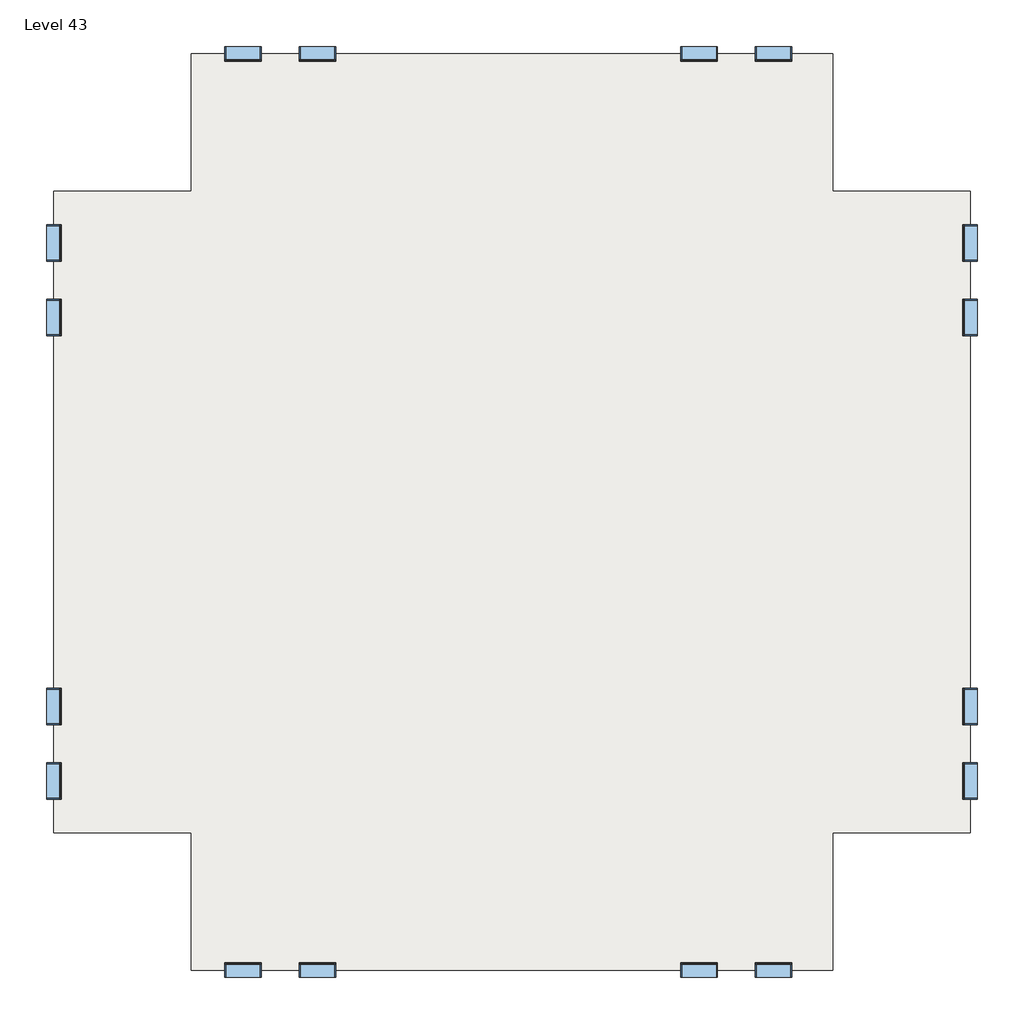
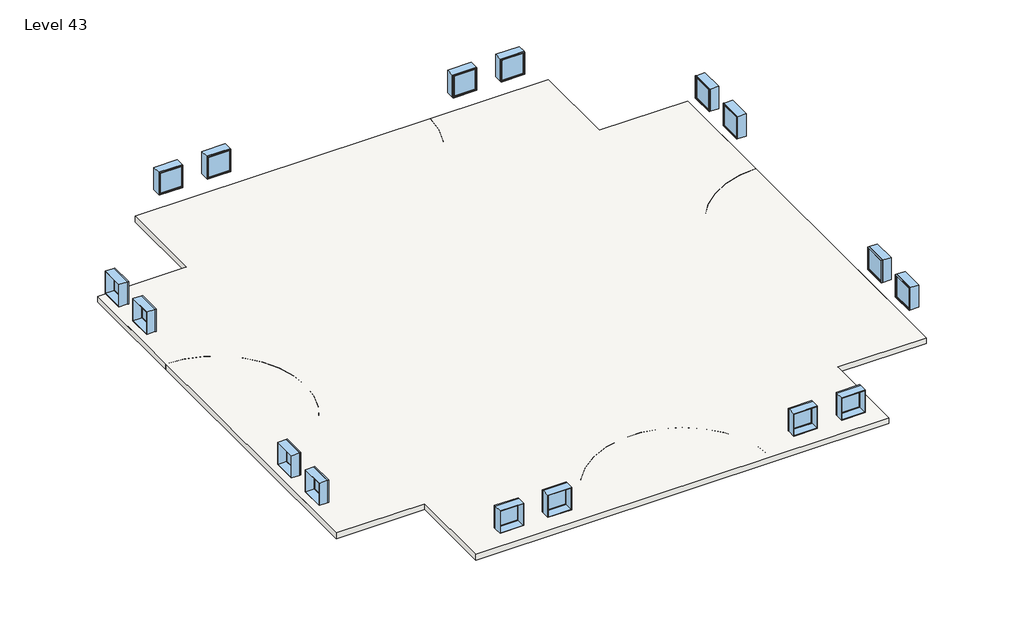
# One storey: 16 windows, 3 slabs.
"""IFC4 building model written with IfcOpenShell, lengths in millimetres."""

from ifc_helpers import new_model, si_unit, point, frame, frame_2d, origin, place, context, project, spatial, polyline, circle_curve, trimmed, segment, composite_curve, outline, extrude, transform, mapped, element, save
from components import window_d0035ecf, window_d434eb62

model = new_model("IFC4")

# Units and contexts
model_context = context("Model", 3, world=origin())
ifc_project = project(units=[si_unit("LENGTHUNIT", "METRE", prefix="MILLI")], contexts=[model_context])

# Site, building, storey
site = spatial("IfcSite", under=ifc_project)
building = spatial("IfcBuilding", under=site)
storey = spatial("IfcBuildingStorey", under=building, Name="Level 43", Elevation=128016.0)

# Slabs
placement = place(None, origin())
element("IfcSlab", 1, ObjectType="Generic - 12\"", at=placement, inside=storey, context=model_context, shape_type="SweptSolid", body=[
    extrude(outline(polyline([(-7150.3629456, 4479.6634547), (-7150.3629456, 9051.6634547), (14185.6370544, 9051.6634547), (14185.6370544, 4479.6634547), (18757.6370544, 4479.6634547), (18757.6370544, -16856.3365453), (14185.6370544, -16856.3365453), (14185.6370544, -21428.3365453), (-7150.3629456, -21428.3365453), (-7150.3629456, -16856.3365453), (-11722.3629456, -16856.3365453), (-11722.3629456, 4479.6634547), (-7150.3629456, 4479.6634547)])), frame((0.0, 0.0, 127711.2), z_axis=(0.0, 0.0, 1.0), x_axis=(1.0, 0.0, 0.0)), (0.0, 0.0, 1.0), 304.8),
])
element("IfcSlab", 2, ObjectType="Generic - 12\"", at=placement, inside=storey, context=model_context, shape_type="SweptSolid", body=[
    extrude(outline(polyline([(-7150.3629456, 4479.6634547), (-7150.3629456, 9051.6634547), (14185.6370544, 9051.6634547), (14185.6370544, 4479.6634547), (18757.6370544, 4479.6634547), (18757.6370544, -16856.3365453), (14185.6370544, -16856.3365453), (14185.6370544, -21428.3365453), (-7150.3629456, -21428.3365453), (-7150.3629456, -16856.3365453), (-11722.3629456, -16856.3365453), (-11722.3629456, 4479.6634547), (-7150.3629456, 4479.6634547)])), frame((0.0, 0.0, 127711.2), z_axis=(0.0, 0.0, 1.0), x_axis=(1.0, 0.0, 0.0)), (0.0, 0.0, 1.0), 304.8),
])
element("IfcSlab", 3, ObjectType="Generic - 12\"", at=placement, inside=storey, context=model_context, shape_type="SweptSolid", body=[
    extrude(outline(composite_curve([segment(polyline([(-7150.3629456, 4479.6634547), (-7150.3629456, 9051.6634547), (-1054.3629456, 9051.6634547)]), True, "CONTINUOUS"), segment(trimmed(circle_curve(frame_2d((3517.6370544, 9051.6634547)), 4572.0), [point((-1054.3629456, 9051.6634547))], [point((8089.6370544, 9051.6634547))], True, "CARTESIAN"), True, "CONTINUOUS"), segment(polyline([(8089.6370544, 9051.6634547), (14185.6370544, 9051.6634547), (14185.6370544, 4479.6634547), (18757.6370544, 4479.6634547), (18757.6370544, -1616.3365453)]), True, "CONTINUOUS"), segment(trimmed(circle_curve(frame_2d((18757.6370544, -6188.3365453)), 4572.0), [point((18757.6370544, -1616.3365453))], [point((18757.6370544, -10760.3365453))], True, "CARTESIAN"), True, "CONTINUOUS"), segment(polyline([(18757.6370544, -10760.3365453), (18757.6370544, -16856.3365453), (14185.6370544, -16856.3365453), (14185.6370544, -21428.3365453), (8089.6370544, -21428.3365453)]), True, "CONTINUOUS"), segment(trimmed(circle_curve(frame_2d((3517.6370544, -21428.3365453)), 4572.0), [point((8089.6370544, -21428.3365453))], [point((-1054.3629456, -21428.3365453))], True, "CARTESIAN"), True, "CONTINUOUS"), segment(polyline([(-1054.3629456, -21428.3365453), (-7150.3629456, -21428.3365453), (-7150.3629456, -16856.3365453), (-11722.3629456, -16856.3365453), (-11722.3629456, -10760.3365453)]), True, "CONTINUOUS"), segment(trimmed(circle_curve(frame_2d((-11722.3629456, -6188.3365453)), 4572.0), [point((-11722.3629456, -10760.3365453))], [point((-11722.3629456, -1616.3365453))], True, "CARTESIAN"), True, "CONTINUOUS"), segment(polyline([(-11722.3629456, -1616.3365453), (-11722.3629456, 4479.6634547), (-7150.3629456, 4479.6634547)]), True, "CONTINUOUS")], self_intersect=False)), frame((0.0, 0.0, 127711.2), z_axis=(0.0, 0.0, 1.0), x_axis=(1.0, 0.0, 0.0)), (0.0, 0.0, 1.0), 304.8),
])

# Windows
window_shape = window_d0035ecf(model_context)
element("IfcWindow", 4, ObjectType="Fixed : 48\" x 48\"", at=placement, inside=storey, context=model_context, shape_type="MappedRepresentation", body=[
    mapped(window_shape, transform((-11719.1879456, 247.3884547, 128016.0), x_axis=(0.0, -1.0, 0.0), y_axis=(1.0, 0.0, 0.0), z_axis=(0.0, 0.0, 1.0))),
])
element("IfcWindow", 5, ObjectType="Fixed : 48\" x 48\"", at=placement, inside=storey, context=model_context, shape_type="MappedRepresentation", body=[
    mapped(window_shape, transform((-5469.1993281, 9048.4884547, 128016.0), x_axis=(-1.0, 0.0, 0.0), y_axis=(0.0, -1.0, 0.0), z_axis=(0.0, 0.0, 1.0))),
])
element("IfcWindow", 6, ObjectType="Fixed : 48\" x 48\"", at=placement, inside=storey, context=model_context, shape_type="MappedRepresentation", body=[
    mapped(window_shape, transform((-11719.1879456, -15175.1729277, 128016.0), x_axis=(0.0, -1.0, 0.0), y_axis=(1.0, 0.0, 0.0), z_axis=(0.0, 0.0, 1.0))),
])
element("IfcWindow", 7, ObjectType="Fixed : 48\" x 48\"", at=placement, inside=storey, context=model_context, shape_type="MappedRepresentation", body=[
    mapped(window_shape, transform((-2918.0879456, -21425.1615453, 128016.0), x_axis=(1.0, 0.0, 0.0), y_axis=(0.0, 1.0, 0.0), z_axis=(0.0, 0.0, 1.0))),
])
element("IfcWindow", 8, ObjectType="Fixed : 48\" x 48\"", at=placement, inside=storey, context=model_context, shape_type="MappedRepresentation", body=[
    mapped(window_shape, transform((18754.4620544, 2798.4998372, 128016.0), x_axis=(0.0, 1.0, 0.0), y_axis=(-1.0, 0.0, 0.0), z_axis=(0.0, 0.0, 1.0))),
])
element("IfcWindow", 9, ObjectType="Fixed : 48\" x 48\"", at=placement, inside=storey, context=model_context, shape_type="MappedRepresentation", body=[
    mapped(window_shape, transform((9705.7120544, 9048.4884547, 128016.0), x_axis=(-1.0, 0.0, 0.0), y_axis=(0.0, -1.0, 0.0), z_axis=(0.0, 0.0, 1.0))),
])
element("IfcWindow", 10, ObjectType="Fixed : 48\" x 48\"", at=placement, inside=storey, context=model_context, shape_type="MappedRepresentation", body=[
    mapped(window_shape, transform((18754.4620544, -12624.0615453, 128016.0), x_axis=(0.0, 1.0, 0.0), y_axis=(-1.0, 0.0, 0.0), z_axis=(0.0, 0.0, 1.0))),
])
element("IfcWindow", 11, ObjectType="Fixed : 48\" x 48\"", at=placement, inside=storey, context=model_context, shape_type="MappedRepresentation", body=[
    mapped(window_shape, transform((12256.8234368, -21425.1615453, 128016.0), x_axis=(1.0, 0.0, 0.0), y_axis=(0.0, 1.0, 0.0), z_axis=(0.0, 0.0, 1.0))),
])
window_2_shape = window_d434eb62(model_context)
element("IfcWindow", 12, ObjectType="Fixed : 48\" x 48\"", at=placement, inside=storey, context=model_context, shape_type="MappedRepresentation", body=[
    mapped(window_2_shape, transform((-11719.1879456, 2798.4998372, 128016.0), x_axis=(0.0, 1.0, 0.0), y_axis=(-1.0, 0.0, 0.0), z_axis=(0.0, 0.0, 1.0))),
])
element("IfcWindow", 13, ObjectType="Fixed : 48\" x 48\"", at=placement, inside=storey, context=model_context, shape_type="MappedRepresentation", body=[
    mapped(window_2_shape, transform((-2918.0879456, 9048.4884547, 128016.0), x_axis=(1.0, 0.0, 0.0), y_axis=(0.0, 1.0, 0.0), z_axis=(0.0, 0.0, 1.0))),
])
element("IfcWindow", 14, ObjectType="Fixed : 48\" x 48\"", at=placement, inside=storey, context=model_context, shape_type="MappedRepresentation", body=[
    mapped(window_2_shape, transform((-11719.1879456, -12624.0615453, 128016.0), x_axis=(0.0, 1.0, 0.0), y_axis=(-1.0, 0.0, 0.0), z_axis=(0.0, 0.0, 1.0))),
])
element("IfcWindow", 15, ObjectType="Fixed : 48\" x 48\"", at=placement, inside=storey, context=model_context, shape_type="MappedRepresentation", body=[
    mapped(window_2_shape, transform((-5469.1993281, -21425.1615453, 128016.0), x_axis=(-1.0, 0.0, 0.0), y_axis=(0.0, -1.0, 0.0), z_axis=(0.0, 0.0, 1.0))),
])
element("IfcWindow", 16, ObjectType="Fixed : 48\" x 48\"", at=placement, inside=storey, context=model_context, shape_type="MappedRepresentation", body=[
    mapped(window_2_shape, transform((18754.4620544, 247.3884547, 128016.0), x_axis=(0.0, -1.0, 0.0), y_axis=(1.0, 0.0, 0.0), z_axis=(0.0, 0.0, 1.0))),
])
element("IfcWindow", 17, ObjectType="Fixed : 48\" x 48\"", at=placement, inside=storey, context=model_context, shape_type="MappedRepresentation", body=[
    mapped(window_2_shape, transform((12256.8234368, 9048.4884547, 128016.0), x_axis=(1.0, 0.0, 0.0), y_axis=(0.0, 1.0, 0.0), z_axis=(0.0, 0.0, 1.0))),
])
element("IfcWindow", 18, ObjectType="Fixed : 48\" x 48\"", at=placement, inside=storey, context=model_context, shape_type="MappedRepresentation", body=[
    mapped(window_2_shape, transform((18754.4620544, -15175.1729277, 128016.0), x_axis=(0.0, -1.0, 0.0), y_axis=(1.0, 0.0, 0.0), z_axis=(0.0, 0.0, 1.0))),
])
element("IfcWindow", 19, ObjectType="Fixed : 48\" x 48\"", at=placement, inside=storey, context=model_context, shape_type="MappedRepresentation", body=[
    mapped(window_2_shape, transform((9705.7120544, -21425.1615453, 128016.0), x_axis=(-1.0, 0.0, 0.0), y_axis=(0.0, -1.0, 0.0), z_axis=(0.0, 0.0, 1.0))),
])

save(model, "model.ifc")
